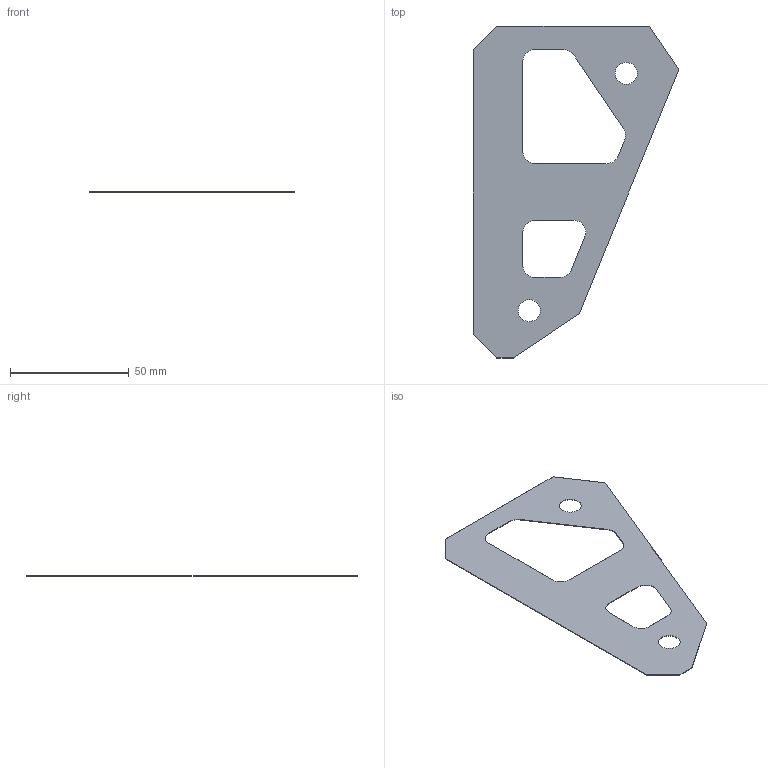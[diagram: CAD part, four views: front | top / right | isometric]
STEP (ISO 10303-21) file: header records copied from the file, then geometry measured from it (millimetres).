
FILE_DESCRIPTION(/* description */ ('CALE MYLAR SUPPORT 1','CAx-IF Rec.Pracs.---Representation and Presentation of Product Manufacturing Information (PMI)---4.0---2014-10-13'),/* implementation_level */ '2;1');
FILE_NAME(/* name */ 'vv330210-A.stp',/* time_stamp */ '2025-09-24T13:45:47+02:00',/* author */ ('mmartin'),/* organization */ (''),/* preprocessor_version */ 'ST-DEVELOPER v20',/* originating_system */ 'Autodesk Inventor 2025',/* authorisation */ '');
FILE_SCHEMA (('AP242_MANAGED_MODEL_BASED_3D_ENGINEERING_MIM_LF { 1 0 10303 442 1 1 4 }'));
Length unit declared in the file: millimetre
Products named in the file (1): VICTOR.V.33.02.10
Bounding box: 86.8 x 140 x 0.25 mm (x, y, z)
Volume: 1601.7 mm3; surface area: 12985.9 mm2
Topology: 1 solids, 1 shells, 30 faces, 84 edges, 56 vertices
Faces by surface type: plane 19, cylinder 11
Full cylindrical faces by diameter (mm): 9.3 x2
Entity records: 1231 total; most frequent: CARTESIAN_POINT 239, DIRECTION 198, ORIENTED_EDGE 168, EDGE_CURVE 84, AXIS2_PLACEMENT_3D 68, LINE 62, VECTOR 62, VERTEX_POINT 56
